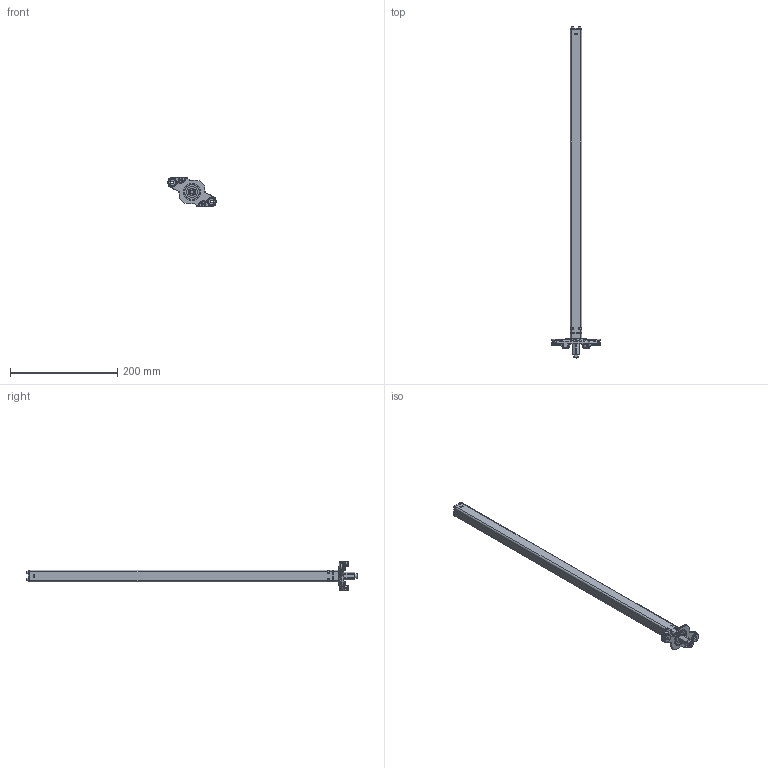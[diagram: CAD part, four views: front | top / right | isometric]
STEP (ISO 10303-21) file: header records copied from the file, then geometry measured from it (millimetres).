
FILE_DESCRIPTION (( 'STEP AP203' ), '1' );
FILE_NAME ('3D_TBS3.STEP', '2018-11-21T07:28:52', ( '' ), ( '' ), 'SwSTEP 2.0', 'SolidWorks 2015', '' );
FILE_SCHEMA (( 'CONFIG_CONTROL_DESIGN' ));
Products named in the file (2): 3D_TBS3
Bounding box: 90 x 619 x 54.22 mm (x, y, z)
Volume: 298607.6 mm3; surface area: 62424.7 mm2
Topology: 4 solids, 4 shells, 1133 faces, 2751 edges, 1588 vertices
Faces by surface type: cylinder 340, bspline 284, plane 233, torus 176, cone 54, sphere 46
Entity records: 39111 total; most frequent: CARTESIAN_POINT 14589, ORIENTED_EDGE 5392, DIRECTION 4872, EDGE_CURVE 2696, AXIS2_PLACEMENT_3D 2015, VERTEX_POINT 1588, EDGE_LOOP 1170, CIRCLE 1164
